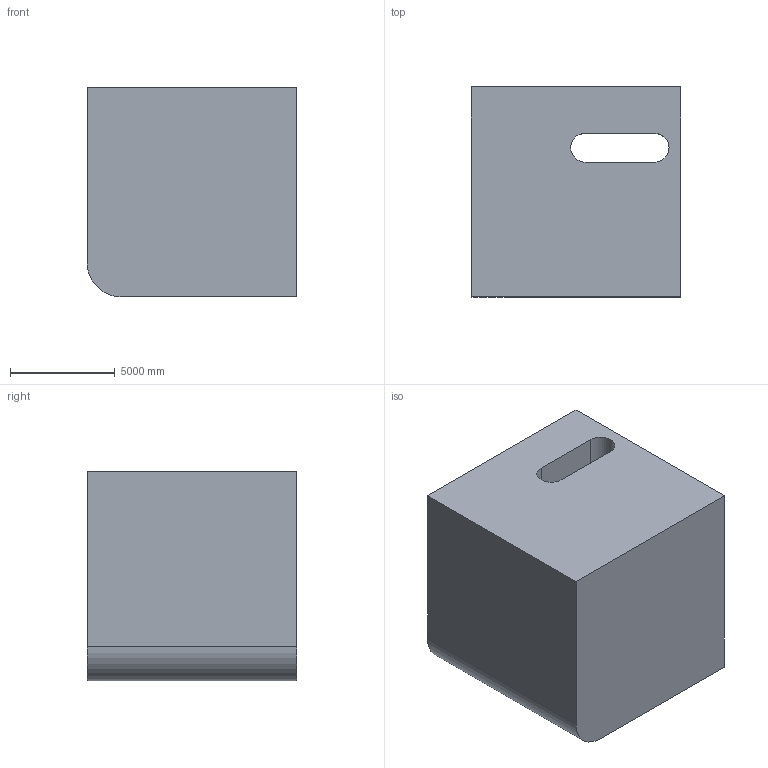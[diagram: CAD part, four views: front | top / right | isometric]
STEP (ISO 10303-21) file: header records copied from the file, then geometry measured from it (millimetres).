
FILE_DESCRIPTION (( 'STEP AP203' ), '1' );
FILE_NAME ('382.STEP', '2022-07-29T11:04:20', ( 'user' ), ( '' ), 'SwSTEP 2.0', 'SolidWorks 2021', '' );
FILE_SCHEMA (( 'CONFIG_CONTROL_DESIGN' ));
Length unit declared in the file: centimetre
Products named in the file (1): 382
Bounding box: 10000 x 10000 x 10000 mm (x, y, z)
Volume: 919892188531.4 mm3; surface area: 720029734.2 mm2
Topology: 1 solids, 1 shells, 21 faces, 57 edges, 38 vertices
Faces by surface type: plane 15, cylinder 6
Entity records: 862 total; most frequent: CARTESIAN_POINT 242, ORIENTED_EDGE 114, DIRECTION 109, EDGE_CURVE 57, VECTOR 43, LINE 43, VERTEX_POINT 38, AXIS2_PLACEMENT_3D 33
